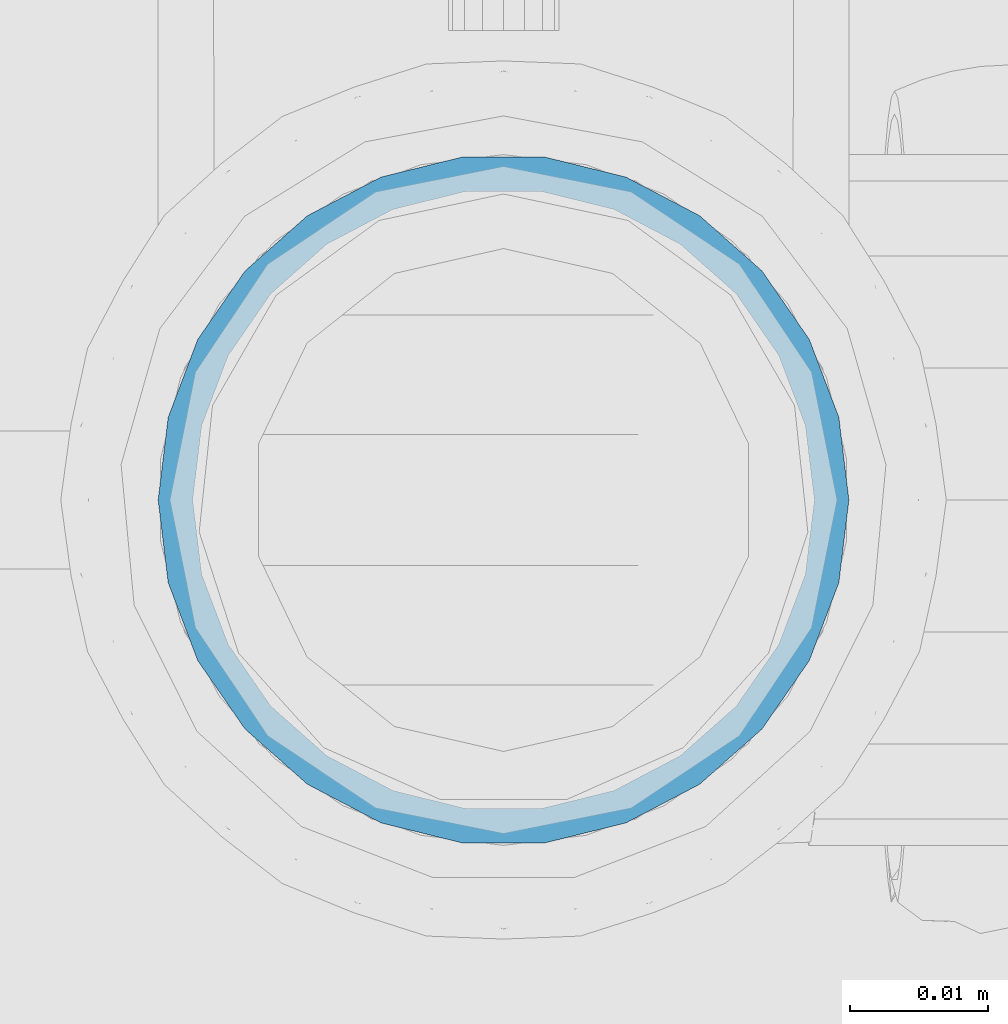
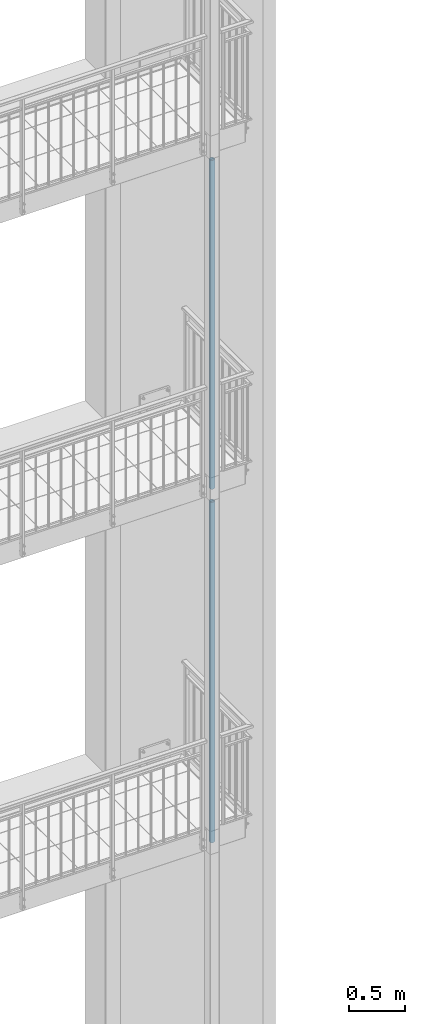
# One storey, part 10 of 162: 2 columns.
"""IFC2X3 building model written with IfcOpenShell, lengths in millimetres."""

from ifc_helpers import new_model, entity, si_unit, converted_unit, frame, origin, origin_with_axes, origin_2d, place, context, project, spatial, hollow_circle, extrude, material, element, save


model = new_model("IFC2X3")

# Units and contexts
model_context = context("Model", 3, precision=1e-09, world=origin_with_axes())
ifc_project = project(units=[si_unit("LENGTHUNIT", "METRE", prefix="MILLI"), si_unit("AREAUNIT", "SQUARE_METRE"), si_unit("VOLUMEUNIT", "CUBIC_METRE"), converted_unit("PLANEANGLEUNIT", "DEGREE", entity("IfcPlaneAngleMeasure", 0.01745329), si_unit("PLANEANGLEUNIT", "RADIAN"), dimensions=[0, 0, 0, 0, 0, 0, 0])], contexts=[model_context])

# Site, building, storey
site_placement = place(None, origin_with_axes())
site = spatial("IfcSite", under=ifc_project, at=site_placement, Name="Hermannstra?e 1a, 60318 Frankfurt", CompositionType="ELEMENT")
building_placement = place(site_placement, origin_with_axes())
building = spatial("IfcBuilding", under=site, at=building_placement, Name="Struktur 1", CompositionType="ELEMENT")
storey_placement = place(building_placement, origin_with_axes())
storey = spatial("IfcBuildingStorey", under=building, at=storey_placement, Name="Default Storey", CompositionType="ELEMENT", Elevation=0.0)

# Columns
ifc_material = material(Name="A500 GR.C")
column_1_placement = place(None, frame((5473.309364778, 1530.609377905, 7499.839347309), z_axis=(0.0, 0.0, 1.0), x_axis=(1.0, 0.0, 0.0)))
element("IfcColumn", 1, at=column_1_placement, inside=storey, material=ifc_material, Name="-", ObjectType="-", context=model_context, shape_type="SweptSolid", body=[
    extrude(hollow_circle(Radius=25.0, WallThickness=2.5, at=origin_2d()), origin(), (0.0, 0.0, -1.0), 3684.839347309),
])
column_2_placement = place(None, frame((5473.309364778, 1530.609377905, 11199.838347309), z_axis=(0.0, 0.0, 1.0), x_axis=(1.0, 0.0, 0.0)))
element("IfcColumn", 2, at=column_2_placement, inside=storey, material=ifc_material, Name="-", ObjectType="-", context=model_context, shape_type="SweptSolid", body=[
    extrude(hollow_circle(Radius=25.0, WallThickness=2.5, at=origin_2d()), origin(), (0.0, 0.0, -1.0), 3559.838347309),
])

save(model, "model.ifc")
